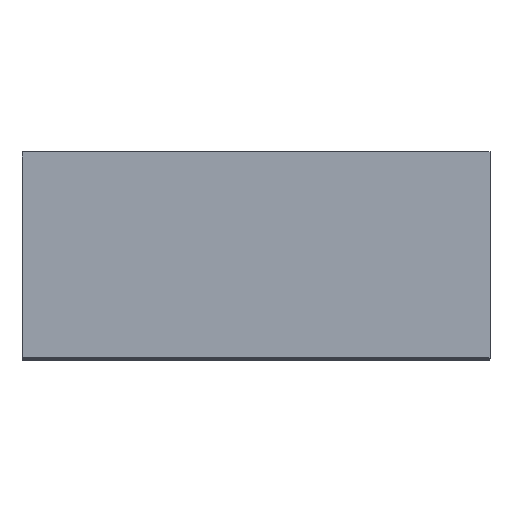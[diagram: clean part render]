
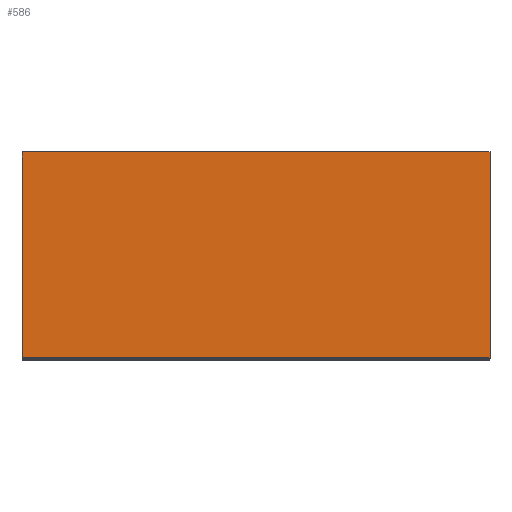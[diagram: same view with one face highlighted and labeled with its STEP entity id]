
A CAD part, top view. The second image highlights one B-rep face of the part: STEP entity #586.
In plain terms, the highlighted planar face has unit normal (0, 0, 1).
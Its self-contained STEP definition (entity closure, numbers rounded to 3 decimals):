
#66 = EDGE_CURVE ( 'NONE', #558, #474, #150, .T. ) ;
#147 = DIRECTION ( 'NONE',  ( 1., 0., 0. ) ) ;
#148 = VECTOR ( 'NONE', #147, 1000. ) ;
#149 = CARTESIAN_POINT ( 'NONE',  ( -25., 11., 65. ) ) ;
#150 = LINE ( 'NONE', #149, #148 ) ;
#337 = DIRECTION ( 'NONE',  ( 0., -1., 0. ) ) ;
#338 = VECTOR ( 'NONE', #337, 1000. ) ;
#339 = CARTESIAN_POINT ( 'NONE',  ( 25., 11., 65. ) ) ;
#340 = LINE ( 'NONE', #339, #338 ) ;
#342 = CARTESIAN_POINT ( 'NONE',  ( 25., -11., 65. ) ) ;
#343 = CARTESIAN_POINT ( 'NONE',  ( -25., -11., 65. ) ) ;
#347 = CARTESIAN_POINT ( 'NONE',  ( 25., 11., 65. ) ) ;
#448 = EDGE_LOOP ( 'NONE', ( #587, #588, #589, #581 ) ) ;
#468 = VERTEX_POINT ( 'NONE', #343 ) ;
#469 = VERTEX_POINT ( 'NONE', #342 ) ;
#470 = EDGE_CURVE ( 'NONE', #474, #469, #340, .T. ) ;
#474 = VERTEX_POINT ( 'NONE', #347 ) ;
#558 = VERTEX_POINT ( 'NONE', #672 ) ;
#565 = EDGE_CURVE ( 'NONE', #558, #468, #662, .T. ) ;
#581 = ORIENTED_EDGE ( 'NONE', *, *, #565, .T. ) ;
#586 = ADVANCED_FACE ( 'NONE', ( #746 ), #745, .F. ) ;
#587 = ORIENTED_EDGE ( 'NONE', *, *, #616, .T. ) ;
#588 = ORIENTED_EDGE ( 'NONE', *, *, #470, .F. ) ;
#589 = ORIENTED_EDGE ( 'NONE', *, *, #66, .F. ) ;
#616 = EDGE_CURVE ( 'NONE', #468, #469, #766, .T. ) ;
#659 = DIRECTION ( 'NONE',  ( 0., -1., 0. ) ) ;
#660 = VECTOR ( 'NONE', #659, 1000. ) ;
#661 = CARTESIAN_POINT ( 'NONE',  ( -25., 11., 65. ) ) ;
#662 = LINE ( 'NONE', #661, #660 ) ;
#672 = CARTESIAN_POINT ( 'NONE',  ( -25., 11., 65. ) ) ;
#740 = DIRECTION ( 'NONE',  ( -1., 0., 0. ) ) ;
#741 = DIRECTION ( 'NONE',  ( 0., 0., -1. ) ) ;
#742 = CARTESIAN_POINT ( 'NONE',  ( -25., 11., 65. ) ) ;
#744 = AXIS2_PLACEMENT_3D ( 'NONE', #742, #741, #740 ) ;
#745 = PLANE ( 'NONE',  #744 ) ;
#746 = FACE_OUTER_BOUND ( 'NONE', #448, .T. ) ;
#763 = DIRECTION ( 'NONE',  ( 1., 0., 0. ) ) ;
#764 = VECTOR ( 'NONE', #763, 1000. ) ;
#765 = CARTESIAN_POINT ( 'NONE',  ( -25., -11., 65. ) ) ;
#766 = LINE ( 'NONE', #765, #764 ) ;
